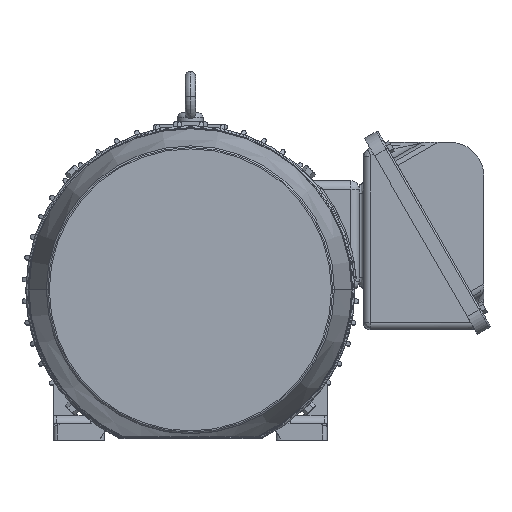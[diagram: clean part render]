
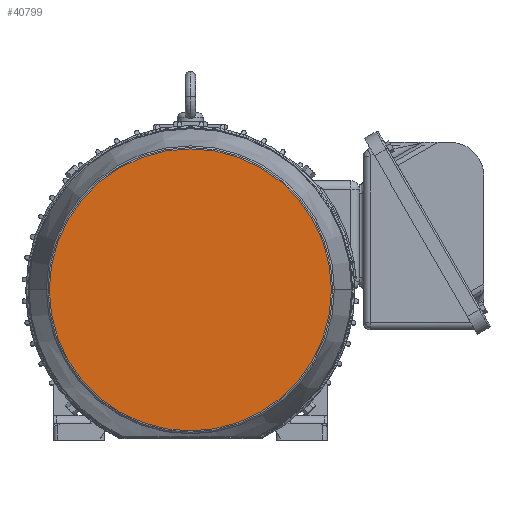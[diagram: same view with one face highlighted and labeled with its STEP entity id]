
A CAD part, top view. The second image highlights one B-rep face of the part: STEP entity #40799.
In plain terms, the highlighted planar face has unit normal (0, 0, 1).
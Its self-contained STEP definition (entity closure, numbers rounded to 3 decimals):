
#1775 = CIRCLE ( 'NONE', #10802, 167.184 ) ;
#1810 = CIRCLE ( 'NONE', #13681, 167.184 ) ;
#7500 = CARTESIAN_POINT ( 'NONE',  ( -167.184, 0., 86.6 ) ) ;
#7501 = CARTESIAN_POINT ( 'NONE',  ( 167.184, 0., 86.6 ) ) ;
#10802 = AXIS2_PLACEMENT_3D ( 'NONE', #11981, #11982, #11983 ) ;
#11981 = CARTESIAN_POINT ( 'NONE',  ( 0., 0., 86.6 ) ) ;
#11982 = DIRECTION ( 'NONE',  ( 0., 0., 1. ) ) ;
#11983 = DIRECTION ( 'NONE',  ( 1., 0., 0. ) ) ;
#13221 = CARTESIAN_POINT ( 'NONE',  ( 0., 0., 86.6 ) ) ;
#13225 = DIRECTION ( 'NONE',  ( 0., 0., 1. ) ) ;
#13226 = DIRECTION ( 'NONE',  ( 1., 0., 0. ) ) ;
#13681 = AXIS2_PLACEMENT_3D ( 'NONE', #13221, #13225, #13226 ) ;
#13810 = FACE_OUTER_BOUND ( 'NONE', #39217, .T. ) ;
#13820 = AXIS2_PLACEMENT_3D ( 'NONE', #14187, #14188, #14189 ) ;
#14186 = PLANE ( 'NONE',  #13820 ) ;
#14187 = CARTESIAN_POINT ( 'NONE',  ( 0., 0., 86.6 ) ) ;
#14188 = DIRECTION ( 'NONE',  ( 0., 0., 1. ) ) ;
#14189 = DIRECTION ( 'NONE',  ( 1., 0., 0. ) ) ;
#37690 = VERTEX_POINT ( 'NONE', #7500 ) ;
#37691 = VERTEX_POINT ( 'NONE', #7501 ) ;
#39217 = EDGE_LOOP ( 'NONE', ( #41690, #41691 ) ) ;
#40611 = EDGE_CURVE ( 'NONE', #37691, #37690, #1775, .T. ) ;
#40686 = EDGE_CURVE ( 'NONE', #37690, #37691, #1810, .T. ) ;
#40799 = ADVANCED_FACE ( 'NONE', ( #13810 ), #14186, .T. ) ;
#41690 = ORIENTED_EDGE ( 'NONE', *, *, #40611, .T. ) ;
#41691 = ORIENTED_EDGE ( 'NONE', *, *, #40686, .T. ) ;
